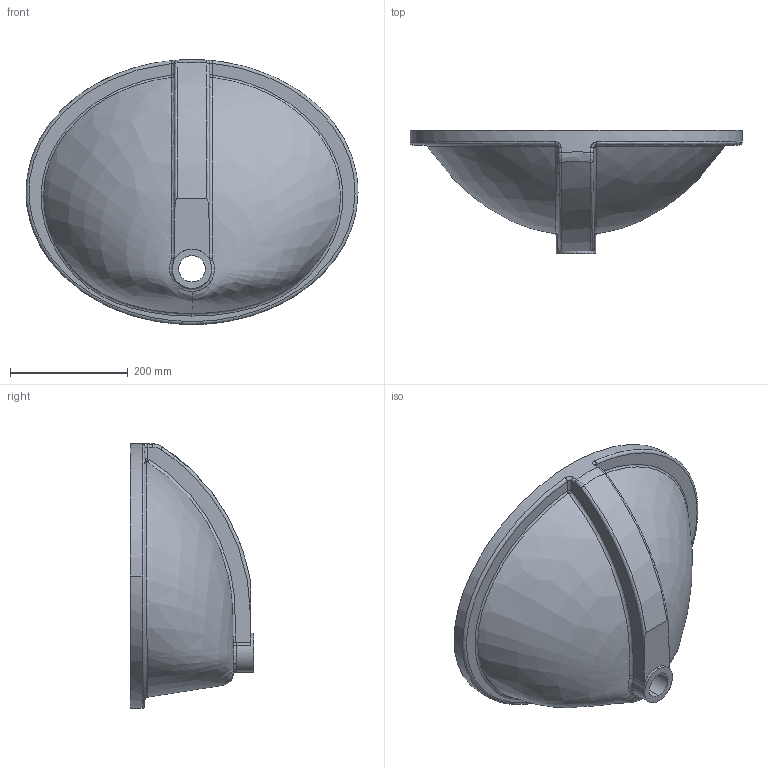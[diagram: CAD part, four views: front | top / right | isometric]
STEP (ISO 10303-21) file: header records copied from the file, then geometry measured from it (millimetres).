
FILE_DESCRIPTION (( 'STEP AP203' ), '1' );
FILE_NAME ('TP205.STEP', '2022-04-20T12:04:19', ( '' ), ( '' ), 'SwSTEP 2.0', 'SolidWorks 2021', '' );
FILE_SCHEMA (( 'CONFIG_CONTROL_DESIGN' ));
Length unit declared in the file: mil
Products named in the file (1): TP205
Bounding box: 564.8 x 210 x 450.65 mm (x, y, z)
Volume: 4239870.4 mm3; surface area: 650842.4 mm2
Topology: 2 solids, 2 shells, 76 faces, 190 edges, 115 vertices
Faces by surface type: bspline 31, plane 22, cylinder 18, cone 2, sphere 2, torus 1
Entity records: 43770 total; most frequent: CARTESIAN_POINT 42118, ORIENTED_EDGE 376, DIRECTION 255, EDGE_CURVE 188, VERTEX_POINT 115, AXIS2_PLACEMENT_3D 99, EDGE_LOOP 79, FACE_OUTER_BOUND 76
